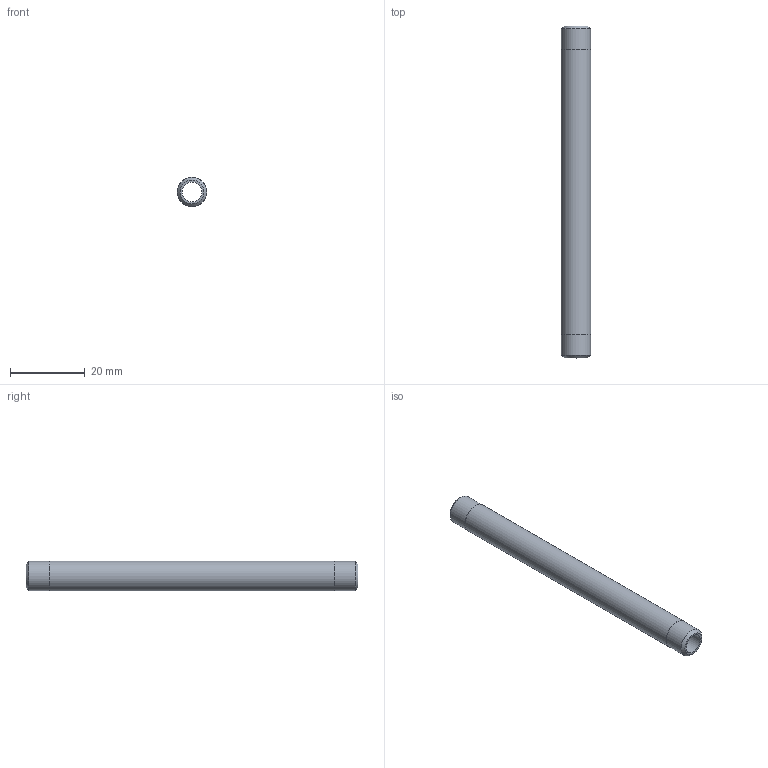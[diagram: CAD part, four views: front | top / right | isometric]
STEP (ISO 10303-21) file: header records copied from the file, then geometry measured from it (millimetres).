
FILE_DESCRIPTION(/* description */ (''),/* implementation_level */ '2;1');
FILE_NAME(/* name */ 'C:/Users/drich/Desktop/SSPN16-3-1_2 v1.step',/* time_stamp */ '2020-01-04T13:22:35-06:00',/* author */ (''),/* organization */ (''),/* preprocessor_version */ 'ST-DEVELOPER v18',/* originating_system */ 'Autodesk Translation Framework v8.12.0.6',/* authorisation */ '');
FILE_SCHEMA (('AUTOMOTIVE_DESIGN { 1 0 10303 214 3 1 1 }'));
Length unit declared in the file: inch
Products named in the file (1): SSPN16-3-1_2
Bounding box: 7.92 x 88.9 x 7.92 mm (x, y, z)
Volume: 2395.9 mm3; surface area: 3724.7 mm2
Topology: 1 solids, 1 shells, 10 faces, 24 edges, 18 vertices
Faces by surface type: cylinder 4, plane 4, cone 2
Full cylindrical faces by diameter (mm): 5.309 x1, 7.874 x2, 7.925 x1
Entity records: 353 total; most frequent: DIRECTION 64, CARTESIAN_POINT 53, ORIENTED_EDGE 48, AXIS2_PLACEMENT_3D 29, EDGE_CURVE 24, CIRCLE 18, VERTEX_POINT 18, EDGE_LOOP 14
